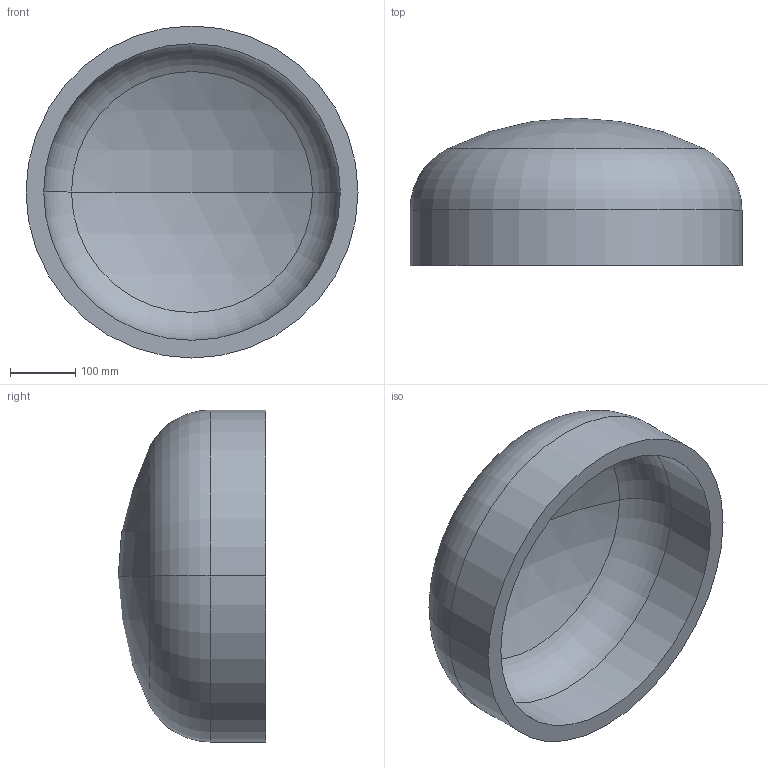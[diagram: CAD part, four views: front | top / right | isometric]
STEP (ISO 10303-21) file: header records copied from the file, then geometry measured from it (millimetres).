
FILE_DESCRIPTION (( 'STEP AP203' ), '1' );
FILE_NAME ('DIN 28013 Korbbogenform_-_Boden DIN 28013 - 508 x 85 - I - s=27.step', '2016-07-01T07:53:36', ( '' ), ( '' ), 'SwSTEP 2.0', 'SolidWorks 2013', '' );
FILE_SCHEMA (( 'CONFIG_CONTROL_DESIGN' ));
Length unit declared in the file: millimetre
Products named in the file (1): DIN 28013 Korbbogenform_-_Boden DIN 28013 - 508 x 85 - I - s=27
Bounding box: 508 x 225.8 x 508 mm (x, y, z)
Volume: 10544171.1 mm3; surface area: 823376.2 mm2
Topology: 1 solids, 1 shells, 13 faces, 24 edges, 14 vertices
Faces by surface type: torus 4, cylinder 4, sphere 4, plane 1
Entity records: 407 total; most frequent: DIRECTION 72, CARTESIAN_POINT 52, ORIENTED_EDGE 48, AXIS2_PLACEMENT_3D 34, EDGE_CURVE 24, CIRCLE 20, VERTEX_POINT 14, EDGE_LOOP 14
